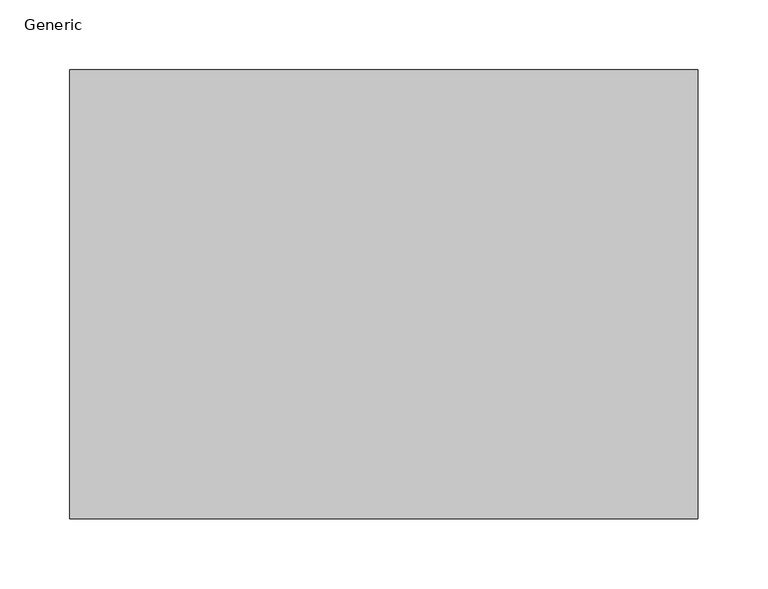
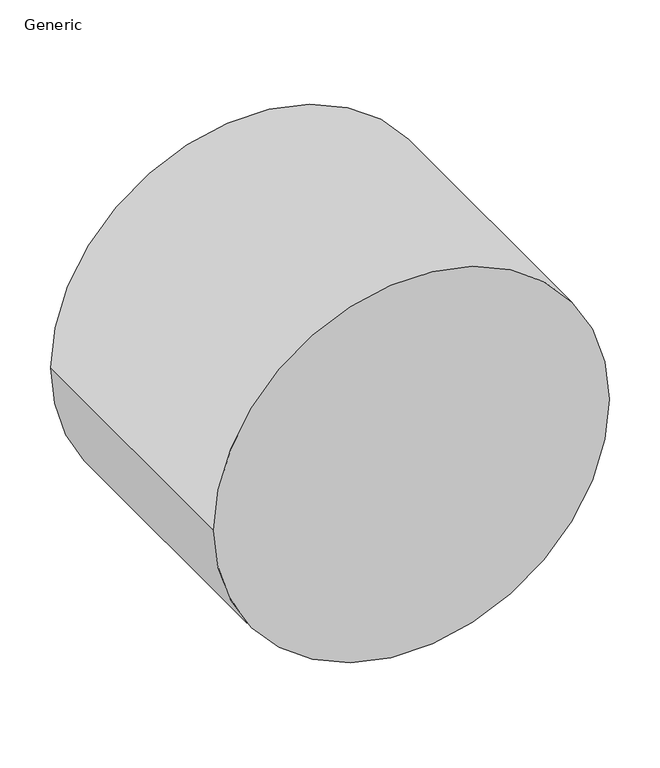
"""IFC4 building model written with IfcOpenShell, lengths in millimetres: proxy geometry, GM_Conduct : Generic."""

from ifc_helpers import new_model, si_unit, point, frame, frame_2d, origin, place, context, project, spatial, circle_curve, trimmed, segment, composite_curve, outline, extrude, source, transform, mapped, element, save


def generic_b7d0f0c7(model_context):
    return source(origin(), model_context, "Body", "SweptSolid", [
        extrude(outline(composite_curve([segment(trimmed(circle_curve(frame_2d((137.0, 0.0)), 225.0), [point((137.0, 225.0))], [point((137.0, -225.0))], False, "CARTESIAN"), True, "CONTINUOUS"), segment(trimmed(circle_curve(frame_2d((137.0, 0.0)), 225.0), [point((137.0, -225.0))], [point((137.0, 225.0))], False, "CARTESIAN"), True, "CONTINUOUS")], self_intersect=False)), frame((0.0, 0.0, 0.0), z_axis=(0.0, 1.0, 0.0), x_axis=(0.0, 0.0, 1.0)), (0.0, 0.0, 1.0), 321.5),
    ])


if __name__ == "__main__":
    model = new_model("IFC4")
    model_context = context("Model", 3, world=origin())
    ifc_project = project(units=[si_unit("LENGTHUNIT", "METRE", prefix="MILLI")], contexts=[model_context])
    site = spatial("IfcSite", under=ifc_project)
    building = spatial("IfcBuilding", under=site)
    placement = place(None, origin())
    generic_shape = generic_b7d0f0c7(model_context)
    element("IfcBuildingElementProxy", 1, Name="GM_Conduct : Generic", ObjectType="GM_Conduct : Generic", at=placement, inside=building, context=model_context, shape_type="MappedRepresentation", body=[
        mapped(generic_shape, transform((0.0, 0.0, 0.0), x_axis=(1.0, 0.0, 0.0), y_axis=(0.0, 1.0, 0.0), z_axis=(0.0, 0.0, 1.0))),
    ])
    save(model, "model.ifc")
